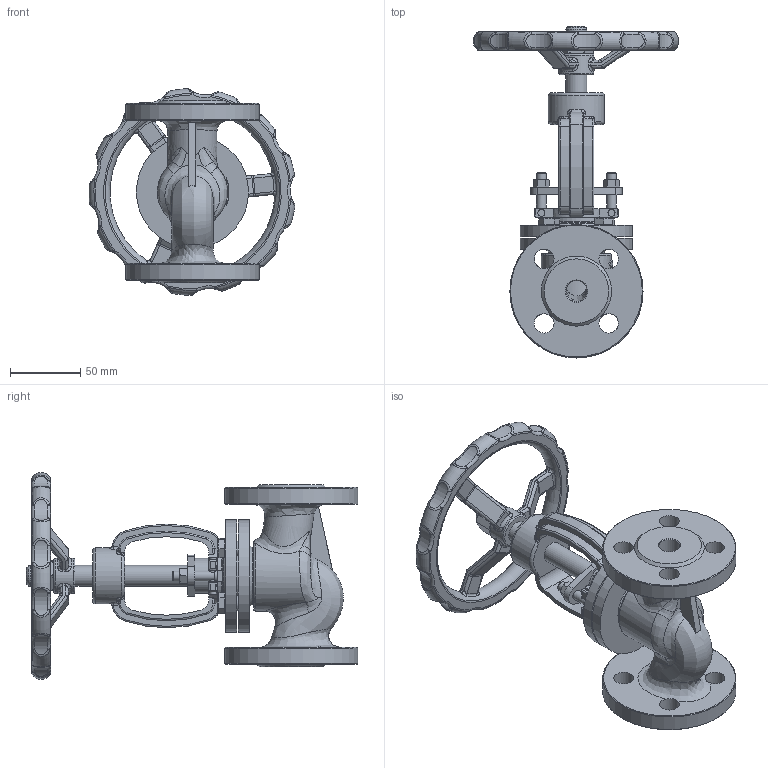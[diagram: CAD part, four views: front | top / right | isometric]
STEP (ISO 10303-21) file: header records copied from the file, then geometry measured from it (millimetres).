
FILE_DESCRIPTION(('STEP AP203'), '1');
FILE_NAME('VSO3131M-F-S 孰囡囗 玎镱痦 DN.ru 捏15 畜16', '2026-04-15T20:44:23', ('R2D2'), (''), 'C3D Converter', 'C3D Toolkit', '');
FILE_SCHEMA(('CONFIG_CONTROL_DESIGN'));
Length unit declared in the file: millimetre
Products named in the file (1): VSO3131M-F-S
Bounding box: 146.86 x 236.6 x 147.46 mm (x, y, z)
Volume: 559468 mm3; surface area: 136782.8 mm2
Topology: 1 solids, 6 shells, 1136 faces, 2823 edges, 1740 vertices
Faces by surface type: plane 352, cylinder 210, extrusion 168, torus 139, bspline 128, cone 75, sphere 64
Full cylindrical faces by diameter (mm): 5 x6, 7 x4, 8 x4, 11 x8, 14 x8, 15 x5, 18 x1, 19 x2, 25 x2, 36 x1, 40 x2, 80 x2, 95 x2
Entity records: 86254 total; most frequent: CARTESIAN_POINT 52243, ORIENTED_EDGE 5434, DIRECTION 4458, EDGE_CURVE 2717, VERTEX_POINT 1725, AXIS2_PLACEMENT_3D 1697, EDGE_LOOP 1312, FACE_BOUND 1195
